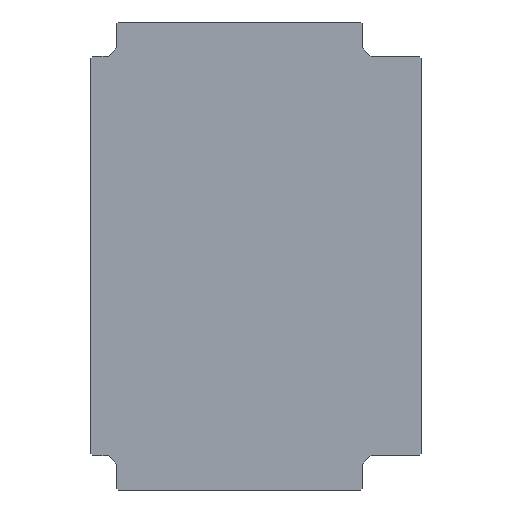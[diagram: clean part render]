
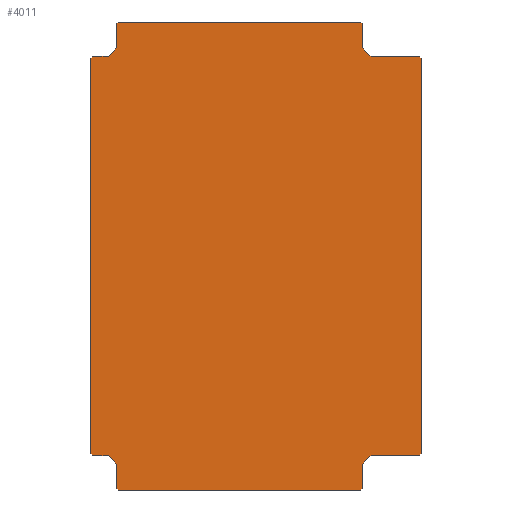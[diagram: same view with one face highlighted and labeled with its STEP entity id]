
A CAD part, front view. The second image highlights one B-rep face of the part: STEP entity #4011.
In plain terms, the highlighted planar face has unit normal (0, -1, 0) as drawn and (0, 0, 1) by its records, which use the part's own axes.
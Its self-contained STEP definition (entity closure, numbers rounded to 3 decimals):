
#1121=CARTESIAN_POINT(' ',(208.5,231.5,0.));
#1126=DIRECTION(' ',(-1.,0.,0.));
#1131=VECTOR(' ',#1126,1.);
#1136=LINE('',#1121,#1131);
#1141=CARTESIAN_POINT(' ',(208.5,231.5,0.));
#1142=VERTEX_POINT(' ',#1141);
#1146=CARTESIAN_POINT(' ',(152.5,231.5,0.));
#1147=VERTEX_POINT(' ',#1146);
#1151=EDGE_CURVE(' ',#1142,#1147,#1136,.T.);
#1276=CARTESIAN_POINT(' ',(210.5,229.5,0.));
#1281=DIRECTION(' ',(-0.707,0.707,0.));
#1286=VECTOR(' ',#1281,1.);
#1291=LINE('',#1276,#1286);
#1296=CARTESIAN_POINT(' ',(210.5,229.5,0.));
#1297=VERTEX_POINT(' ',#1296);
#1301=EDGE_CURVE(' ',#1297,#1142,#1291,.T.);
#1391=CARTESIAN_POINT(' ',(210.5,-229.5,0.));
#1396=DIRECTION(' ',(0.,1.,0.));
#1401=VECTOR(' ',#1396,1.);
#1406=LINE('',#1391,#1401);
#1411=CARTESIAN_POINT(' ',(210.5,-229.5,0.));
#1412=VERTEX_POINT(' ',#1411);
#1416=EDGE_CURVE(' ',#1412,#1297,#1406,.T.);
#1506=CARTESIAN_POINT(' ',(208.5,-231.5,0.));
#1511=DIRECTION(' ',(0.707,0.707,0.));
#1516=VECTOR(' ',#1511,1.);
#1521=LINE('',#1506,#1516);
#1526=CARTESIAN_POINT(' ',(208.5,-231.5,0.));
#1527=VERTEX_POINT(' ',#1526);
#1531=EDGE_CURVE(' ',#1527,#1412,#1521,.T.);
#1621=CARTESIAN_POINT(' ',(152.5,-231.5,0.));
#1626=DIRECTION(' ',(1.,0.,0.));
#1631=VECTOR(' ',#1626,1.);
#1636=LINE('',#1621,#1631);
#1641=CARTESIAN_POINT(' ',(152.5,-231.5,0.));
#1642=VERTEX_POINT(' ',#1641);
#1646=EDGE_CURVE(' ',#1642,#1527,#1636,.T.);
#1726=CARTESIAN_POINT(' ',(142.5,-241.5,0.));
#1731=DIRECTION(' ',(0.707,0.707,0.));
#1736=VECTOR(' ',#1731,1.);
#1741=LINE('',#1726,#1736);
#1746=CARTESIAN_POINT(' ',(142.5,-241.5,0.));
#1747=VERTEX_POINT(' ',#1746);
#1751=EDGE_CURVE(' ',#1747,#1642,#1741,.T.);
#1841=CARTESIAN_POINT(' ',(142.5,-269.5,0.));
#1846=DIRECTION(' ',(0.,1.,0.));
#1851=VECTOR(' ',#1846,1.);
#1856=LINE('',#1841,#1851);
#1861=CARTESIAN_POINT(' ',(142.5,-269.5,0.));
#1862=VERTEX_POINT(' ',#1861);
#1866=EDGE_CURVE(' ',#1862,#1747,#1856,.T.);
#1956=CARTESIAN_POINT(' ',(140.5,-271.5,0.));
#1961=DIRECTION(' ',(0.707,0.707,0.));
#1966=VECTOR(' ',#1961,1.);
#1971=LINE('',#1956,#1966);
#1976=CARTESIAN_POINT(' ',(140.5,-271.5,0.));
#1977=VERTEX_POINT(' ',#1976);
#1981=EDGE_CURVE(' ',#1977,#1862,#1971,.T.);
#2081=CARTESIAN_POINT(' ',(-140.5,-271.5,0.));
#2086=DIRECTION(' ',(1.,0.,0.));
#2091=VECTOR(' ',#2086,1.);
#2096=LINE('',#2081,#2091);
#2101=CARTESIAN_POINT(' ',(-140.5,-271.5,0.));
#2102=VERTEX_POINT(' ',#2101);
#2106=EDGE_CURVE(' ',#2102,#1977,#2096,.T.);
#2186=CARTESIAN_POINT(' ',(-142.5,-269.5,0.));
#2191=DIRECTION(' ',(0.707,-0.707,0.));
#2196=VECTOR(' ',#2191,1.);
#2201=LINE('',#2186,#2196);
#2206=CARTESIAN_POINT(' ',(-142.5,-269.5,0.));
#2207=VERTEX_POINT(' ',#2206);
#2211=EDGE_CURVE(' ',#2207,#2102,#2201,.T.);
#2311=CARTESIAN_POINT(' ',(-142.5,-241.5,0.));
#2316=DIRECTION(' ',(0.,-1.,0.));
#2321=VECTOR(' ',#2316,1.);
#2326=LINE('',#2311,#2321);
#2331=CARTESIAN_POINT(' ',(-142.5,-241.5,0.));
#2332=VERTEX_POINT(' ',#2331);
#2336=EDGE_CURVE(' ',#2332,#2207,#2326,.T.);
#2416=CARTESIAN_POINT(' ',(-152.5,-231.5,0.));
#2421=DIRECTION(' ',(0.707,-0.707,0.));
#2426=VECTOR(' ',#2421,1.);
#2431=LINE('',#2416,#2426);
#2436=CARTESIAN_POINT(' ',(-152.5,-231.5,0.));
#2437=VERTEX_POINT(' ',#2436);
#2441=EDGE_CURVE(' ',#2437,#2332,#2431,.T.);
#2531=CARTESIAN_POINT(' ',(-170.5,-231.5,0.));
#2536=DIRECTION(' ',(1.,0.,0.));
#2541=VECTOR(' ',#2536,1.);
#2546=LINE('',#2531,#2541);
#2551=CARTESIAN_POINT(' ',(-170.5,-231.5,0.));
#2552=VERTEX_POINT(' ',#2551);
#2556=EDGE_CURVE(' ',#2552,#2437,#2546,.T.);
#2646=CARTESIAN_POINT(' ',(-172.5,-229.5,0.));
#2651=DIRECTION(' ',(0.707,-0.707,0.));
#2656=VECTOR(' ',#2651,1.);
#2661=LINE('',#2646,#2656);
#2666=CARTESIAN_POINT(' ',(-172.5,-229.5,0.));
#2667=VERTEX_POINT(' ',#2666);
#2671=EDGE_CURVE(' ',#2667,#2552,#2661,.T.);
#2771=CARTESIAN_POINT(' ',(-172.5,229.5,0.));
#2776=DIRECTION(' ',(0.,-1.,0.));
#2781=VECTOR(' ',#2776,1.);
#2786=LINE('',#2771,#2781);
#2791=CARTESIAN_POINT(' ',(-172.5,229.5,0.));
#2792=VERTEX_POINT(' ',#2791);
#2796=EDGE_CURVE(' ',#2792,#2667,#2786,.T.);
#2876=CARTESIAN_POINT(' ',(-170.5,231.5,0.));
#2881=DIRECTION(' ',(-0.707,-0.707,0.));
#2886=VECTOR(' ',#2881,1.);
#2891=LINE('',#2876,#2886);
#2896=CARTESIAN_POINT(' ',(-170.5,231.5,0.));
#2897=VERTEX_POINT(' ',#2896);
#2901=EDGE_CURVE(' ',#2897,#2792,#2891,.T.);
#3001=CARTESIAN_POINT(' ',(-152.5,231.5,0.));
#3006=DIRECTION(' ',(-1.,0.,0.));
#3011=VECTOR(' ',#3006,1.);
#3016=LINE('',#3001,#3011);
#3021=CARTESIAN_POINT(' ',(-152.5,231.5,0.));
#3022=VERTEX_POINT(' ',#3021);
#3026=EDGE_CURVE(' ',#3022,#2897,#3016,.T.);
#3106=CARTESIAN_POINT(' ',(-142.5,241.5,0.));
#3111=DIRECTION(' ',(-0.707,-0.707,0.));
#3116=VECTOR(' ',#3111,1.);
#3121=LINE('',#3106,#3116);
#3126=CARTESIAN_POINT(' ',(-142.5,241.5,0.));
#3127=VERTEX_POINT(' ',#3126);
#3131=EDGE_CURVE(' ',#3127,#3022,#3121,.T.);
#3221=CARTESIAN_POINT(' ',(-142.5,269.5,0.));
#3226=DIRECTION(' ',(0.,-1.,0.));
#3231=VECTOR(' ',#3226,1.);
#3236=LINE('',#3221,#3231);
#3241=CARTESIAN_POINT(' ',(-142.5,269.5,0.));
#3242=VERTEX_POINT(' ',#3241);
#3246=EDGE_CURVE(' ',#3242,#3127,#3236,.T.);
#3336=CARTESIAN_POINT(' ',(-140.5,271.5,0.));
#3341=DIRECTION(' ',(-0.707,-0.707,0.));
#3346=VECTOR(' ',#3341,1.);
#3351=LINE('',#3336,#3346);
#3356=CARTESIAN_POINT(' ',(-140.5,271.5,0.));
#3357=VERTEX_POINT(' ',#3356);
#3361=EDGE_CURVE(' ',#3357,#3242,#3351,.T.);
#3461=CARTESIAN_POINT(' ',(140.5,271.5,0.));
#3466=DIRECTION(' ',(-1.,0.,0.));
#3471=VECTOR(' ',#3466,1.);
#3476=LINE('',#3461,#3471);
#3481=CARTESIAN_POINT(' ',(140.5,271.5,0.));
#3482=VERTEX_POINT(' ',#3481);
#3486=EDGE_CURVE(' ',#3482,#3357,#3476,.T.);
#3566=CARTESIAN_POINT(' ',(142.5,269.5,0.));
#3571=DIRECTION(' ',(-0.707,0.707,0.));
#3576=VECTOR(' ',#3571,1.);
#3581=LINE('',#3566,#3576);
#3586=CARTESIAN_POINT(' ',(142.5,269.5,0.));
#3587=VERTEX_POINT(' ',#3586);
#3591=EDGE_CURVE(' ',#3587,#3482,#3581,.T.);
#3691=CARTESIAN_POINT(' ',(142.5,241.5,0.));
#3696=DIRECTION(' ',(0.,1.,0.));
#3701=VECTOR(' ',#3696,1.);
#3706=LINE('',#3691,#3701);
#3711=CARTESIAN_POINT(' ',(142.5,241.5,0.));
#3712=VERTEX_POINT(' ',#3711);
#3716=EDGE_CURVE(' ',#3712,#3587,#3706,.T.);
#3796=CARTESIAN_POINT(' ',(152.5,231.5,0.));
#3801=DIRECTION(' ',(-0.707,0.707,0.));
#3806=VECTOR(' ',#3801,1.);
#3811=LINE('',#3796,#3806);
#3816=EDGE_CURVE(' ',#1147,#3712,#3811,.T.);
#3856=DIRECTION(' ',(-0.,-0.,1.));
#3861=CARTESIAN_POINT(' ',(210.5,-271.5,0.));
#3866=DIRECTION(' ',(0.,1.,0.));
#3871=AXIS2_PLACEMENT_3D(' ',#3861,#3856,#3866);
#3876=PLANE('NONE',#3871);
#3881=ORIENTED_EDGE(' ',*,*,#1416,.T.);
#3886=ORIENTED_EDGE(' ',*,*,#1301,.T.);
#3891=ORIENTED_EDGE(' ',*,*,#1151,.T.);
#3896=ORIENTED_EDGE(' ',*,*,#3816,.T.);
#3901=ORIENTED_EDGE(' ',*,*,#3716,.T.);
#3906=ORIENTED_EDGE(' ',*,*,#3591,.T.);
#3911=ORIENTED_EDGE(' ',*,*,#3486,.T.);
#3916=ORIENTED_EDGE(' ',*,*,#3361,.T.);
#3921=ORIENTED_EDGE(' ',*,*,#3246,.T.);
#3926=ORIENTED_EDGE(' ',*,*,#3131,.T.);
#3931=ORIENTED_EDGE(' ',*,*,#3026,.T.);
#3936=ORIENTED_EDGE(' ',*,*,#2901,.T.);
#3941=ORIENTED_EDGE(' ',*,*,#2796,.T.);
#3946=ORIENTED_EDGE(' ',*,*,#2671,.T.);
#3951=ORIENTED_EDGE(' ',*,*,#2556,.T.);
#3956=ORIENTED_EDGE(' ',*,*,#2441,.T.);
#3961=ORIENTED_EDGE(' ',*,*,#2336,.T.);
#3966=ORIENTED_EDGE(' ',*,*,#2211,.T.);
#3971=ORIENTED_EDGE(' ',*,*,#2106,.T.);
#3976=ORIENTED_EDGE(' ',*,*,#1981,.T.);
#3981=ORIENTED_EDGE(' ',*,*,#1866,.T.);
#3986=ORIENTED_EDGE(' ',*,*,#1751,.T.);
#3991=ORIENTED_EDGE(' ',*,*,#1646,.T.);
#3996=ORIENTED_EDGE(' ',*,*,#1531,.T.);
#4001=EDGE_LOOP(' ',(#3881,#3886,#3891,#3896,#3901,#3906,#3911,#3916,#3921,#3926,#3931,#3936,#3941,#3946,#3951,#3956,#3961,#3966,#3971,#3976,#3981,#3986,#3991,#3996));
#4006=FACE_OUTER_BOUND(' ',#4001,.T.);
#4011=ADVANCED_FACE('NONE',(#4006),#3876,.T.);
